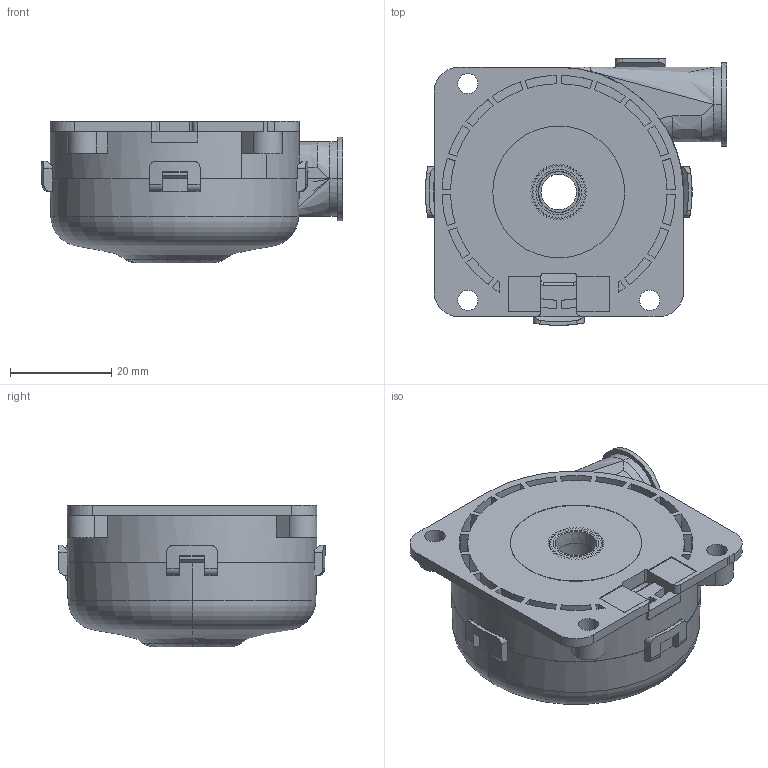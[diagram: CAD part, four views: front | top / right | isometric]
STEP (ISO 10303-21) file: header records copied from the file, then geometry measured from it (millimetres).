
FILE_DESCRIPTION((''),'2;1');
FILE_NAME('5030-00_ASM','2026-04-07T14:15:42',('pc'),(''),'CREO PARAMETRIC BY PTC INC, 2018050','CREO PARAMETRIC BY PTC INC, 2018050','');
FILE_SCHEMA(('CONFIG_CONTROL_DESIGN','GEOMETRIC_VALIDATION_PROPERTIES_MIM'));
Length unit declared in the file: millimetre
Products named in the file (4): A00; B00; 00; 5030-00_ASM
Assembly tree (3 placements, depth 2):
  5030-00_ASM
    A00
    B00
    00
Bounding box: 59.39 x 52.59 x 27.87 mm (x, y, z)
Volume: 14724.1 mm3; surface area: 18871.3 mm2
Topology: 3 solids, 3 shells, 677 faces, 1700 edges, 1035 vertices
Faces by surface type: plane 488, cylinder 117, torus 22, bspline 19, cone 18, revolution 8, extrusion 5
Entity records: 26105 total; most frequent: CARTESIAN_POINT 5099, ORIENTED_EDGE 3384, DIRECTION 3348, EDGE_CURVE 1692, VECTOR 1146, LINE 1141, AXIS2_PLACEMENT_3D 1097, PRESENTATION_STYLE_ASSIGNMENT 1064
